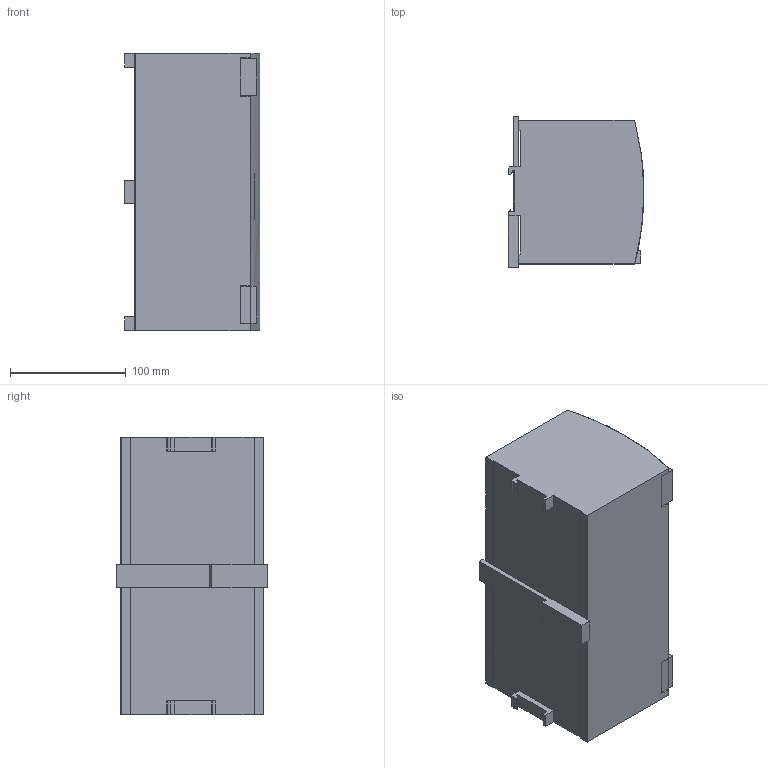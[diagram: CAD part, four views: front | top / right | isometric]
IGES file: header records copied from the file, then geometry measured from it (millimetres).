
Start section: SolidWorks IGES FILE using analytic representation for surfaces
Global section: file name: C:\Vertrieb\SL30_300\SL30_300.IGS; native system: SolidWorks 2004 by SolidWorks Corporation; preprocessor: Version 5.3; author: heinrij; date: 031006.141659; units: millimetre
Bounding box: 117.63 x 130.5 x 240 mm (x, y, z)
Surface area: 145752.2 mm2 (no closed solid volume)
Topology: 0 solids, 0 shells, 738 faces, 7026 edges, 7026 vertices
Faces by surface type: bspline 696, revolution 42
